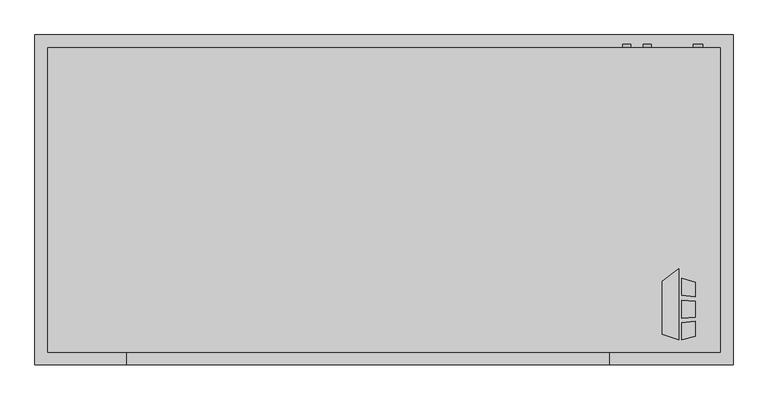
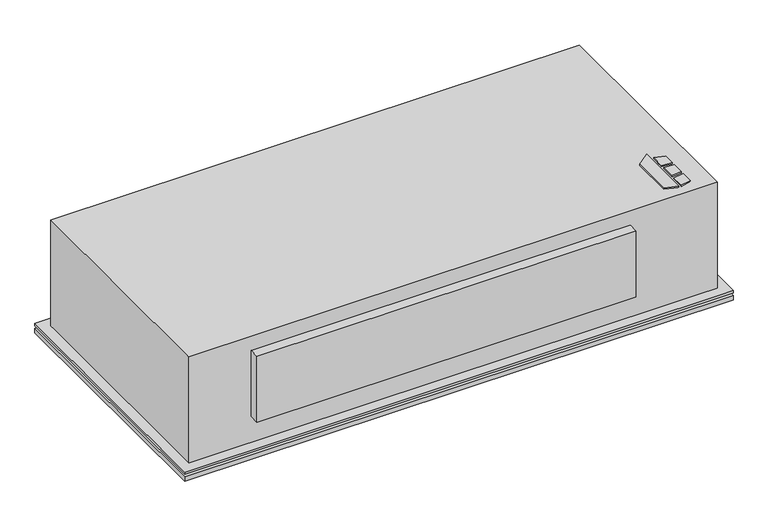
"""IFC4 building model written with IfcOpenShell, lengths in millimetres: proxy geometry, Horizontal_Telescoping_Fan_Coil_Unit_-_CBY_-_IEC_-_2-Pipe_Cool-EHeat_RH_2022 : Size 08 - 277v/60Hz/1Ph - 4 Row 6.0kW."""

from ifc_helpers import new_model, si_unit, point, frame, frame_2d, origin, origin_with_axes, place, context, project, spatial, polyline, circle_curve, trimmed, segment, composite_curve, outline, extrude, source, transform, mapped, element, save


def mechanical_equipment_81cd0e4f(model_context):
    return source(origin(), model_context, "Body", "SweptSolid", [
        extrude(outline(polyline([(709.3019761, -401.0078476), (741.8602728, -375.5705184), (741.8602728, -517.525), (709.3019761, -507.3054201), (709.3019761, -401.0078476)])), origin_with_axes(), (0.0, 0.0, 1.0), 3.175),
        extrude(outline(polyline([(748.6186058, -428.879852), (748.6186058, -394.3999379), (774.7, -402.5865115), (774.7, -432.0822446), (748.6186058, -428.879852)])), origin_with_axes(), (0.0, 0.0, 1.0), 3.175),
        extrude(outline(polyline([(774.7, -510.5365115), (748.6186058, -517.525), (748.6186058, -484.3036996), (774.7, -480.7618564), (774.7, -510.5365115)])), origin_with_axes(), (0.0, 0.0, 1.0), 3.175),
        extrude(outline(polyline([(774.7, -441.1638277), (774.7, -472.413983), (748.6186058, -475.155248), (748.6186058, -439.2975378), (774.7, -441.1638277)])), origin_with_axes(), (0.0, 0.0, 1.0), 3.175),
        extrude(outline(composite_curve([segment(trimmed(circle_curve(frame_2d((-95.25, 679.45)), 7.9375), [point((-95.25, 687.3875))], [point((-95.25, 671.5125))], False, "CARTESIAN"), True, "CONTINUOUS"), segment(trimmed(circle_curve(frame_2d((-95.25, 679.45)), 7.9375), [point((-95.25, 671.5125))], [point((-95.25, 687.3875))], False, "CARTESIAN"), True, "CONTINUOUS")], self_intersect=False)), frame((0.0, 66.675, 0.0), z_axis=(0.0, 1.0, 0.0), x_axis=(0.0, 0.0, 1.0)), (0.0, 0.0, 1.0), 6.35),
        extrude(outline(composite_curve([segment(trimmed(circle_curve(frame_2d((-60.325, 638.175)), 7.9375), [point((-60.325, 646.1125))], [point((-60.325, 630.2375))], False, "CARTESIAN"), True, "CONTINUOUS"), segment(trimmed(circle_curve(frame_2d((-60.325, 638.175)), 7.9375), [point((-60.325, 630.2375))], [point((-60.325, 646.1125))], False, "CARTESIAN"), True, "CONTINUOUS")], self_intersect=False)), frame((0.0, 66.675, 0.0), z_axis=(0.0, 1.0, 0.0), x_axis=(0.0, 0.0, 1.0)), (0.0, 0.0, 1.0), 6.35),
        extrude(outline(composite_curve([segment(trimmed(circle_curve(frame_2d((-260.35, 781.05)), 9.525), [point((-260.35, 790.575))], [point((-260.35, 771.525))], False, "CARTESIAN"), True, "CONTINUOUS"), segment(trimmed(circle_curve(frame_2d((-260.35, 781.05)), 9.525), [point((-260.35, 771.525))], [point((-260.35, 790.575))], False, "CARTESIAN"), True, "CONTINUOUS")], self_intersect=False)), frame((0.0, 66.675, 0.0), z_axis=(0.0, 1.0, 0.0), x_axis=(0.0, 0.0, 1.0)), (0.0, 0.0, 1.0), 6.35),
        extrude(outline(polyline([(850.9, 92.075), (850.9, -568.325), (-546.1, -568.325), (-546.1, 92.075), (850.9, 92.075)])), frame((0.0, 0.0, -311.15), z_axis=(0.0, 0.0, 1.0), x_axis=(1.0, 0.0, 0.0)), (0.0, 0.0, 1.0), 12.7),
        extrude(outline(polyline([(850.9, 92.075), (850.9, -568.325), (-546.1, -568.325), (-546.1, 92.075), (850.9, 92.075)])), frame((0.0, 0.0, -292.1), z_axis=(0.0, 0.0, 1.0), x_axis=(1.0, 0.0, 0.0)), (0.0, 0.0, 1.0), 6.35),
        extrude(outline(polyline([(825.5, 66.675), (825.5, -542.925), (-520.7, -542.925), (-520.7, 66.675), (825.5, 66.675)])), frame((0.0, 0.0, -298.45), z_axis=(0.0, 0.0, 1.0), x_axis=(1.0, 0.0, 0.0)), (0.0, 0.0, 1.0), 6.35),
        extrude(outline(polyline([(603.25, -568.325), (-361.95, -568.325), (-361.95, -542.925), (603.25, -542.925), (603.25, -568.325)])), frame((0.0, 0.0, -215.9), z_axis=(0.0, 0.0, 1.0), x_axis=(1.0, 0.0, 0.0)), (0.0, 0.0, 1.0), 177.8),
        extrude(outline(polyline([(-520.7, 66.675), (825.5, 66.675), (825.5, -542.925), (-520.7, -542.925), (-520.7, 66.675)])), frame((0.0, 0.0, -285.75), z_axis=(0.0, 0.0, 1.0), x_axis=(1.0, 0.0, 0.0)), (0.0, 0.0, 1.0), 285.75),
        extrude(outline(polyline([(723.9, -9.525), (723.9, -263.525), (-419.1, -263.525), (-419.1, -9.525), (723.9, -9.525)])), frame((0.0, 0.0, -317.5), z_axis=(0.0, 0.0, 1.0), x_axis=(1.0, 0.0, 0.0)), (0.0, 0.0, 1.0), 6.35),
    ])


if __name__ == "__main__":
    model = new_model("IFC4")
    model_context = context("Model", 3, world=origin())
    ifc_project = project(units=[si_unit("LENGTHUNIT", "METRE", prefix="MILLI")], contexts=[model_context])
    site = spatial("IfcSite", under=ifc_project)
    building = spatial("IfcBuilding", under=site)
    placement = place(None, origin())
    mechanical_equipment_shape = mechanical_equipment_81cd0e4f(model_context)
    element("IfcBuildingElementProxy", 1, Name="Horizontal_Telescoping_Fan_Coil_Unit_-_CBY_-_IEC_-_2-Pipe_Cool-EHeat_RH_2022 : Size 08 - 277v/60Hz/1Ph - 4 Row 6.0kW", ObjectType="Horizontal_Telescoping_Fan_Coil_Unit_-_CBY_-_IEC_-_2-Pipe_Cool-EHeat_RH_2022 : Size 08 - 277v/60Hz/1Ph - 4 Row 6.0kW", at=placement, inside=building, context=model_context, shape_type="MappedRepresentation", body=[
        mapped(mechanical_equipment_shape, transform((0.0, 0.0, 0.0), x_axis=(1.0, 0.0, 0.0), y_axis=(0.0, 1.0, 0.0), z_axis=(0.0, 0.0, 1.0))),
    ])
    save(model, "model.ifc")
